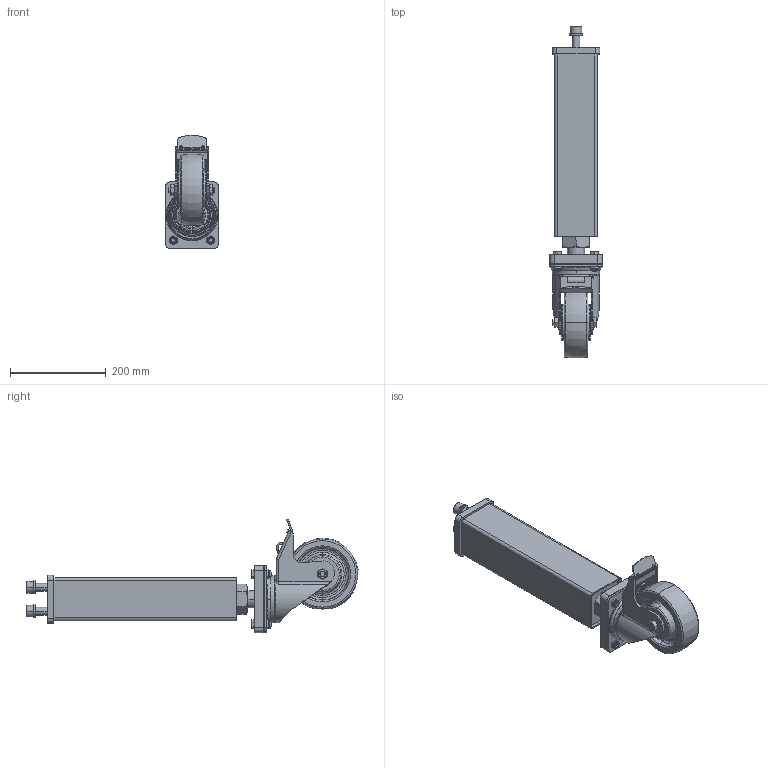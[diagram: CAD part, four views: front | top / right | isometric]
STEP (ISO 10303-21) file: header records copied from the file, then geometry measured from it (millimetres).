
FILE_DESCRIPTION (( 'STEP AP203' ), '1' );
FILE_NAME ('280876.X - 28003398__________.step', '2023-01-27T09:19:33', ( '' ), ( '' ), 'SwSTEP 2.0', 'SolidWorks 2020', '' );
FILE_SCHEMA (( 'CONFIG_CONTROL_DESIGN' ));
Length unit declared in the file: millimetre
Products named in the file (1): 280876.X - 28003398__________
Bounding box: 110 x 693.66 x 237.13 mm (x, y, z)
Volume: 2300810.1 mm3; surface area: 544889.1 mm2
Topology: 6 solids, 14 shells, 1273 faces, 3103 edges, 1900 vertices
Faces by surface type: plane 427, cone 303, cylinder 237, bspline 202, torus 99, sphere 5
Entity records: 50305 total; most frequent: CARTESIAN_POINT 22098, ORIENTED_EDGE 6188, DIRECTION 5409, EDGE_CURVE 3094, AXIS2_PLACEMENT_3D 2169, VERTEX_POINT 1899, EDGE_LOOP 1347, ADVANCED_FACE 1273
